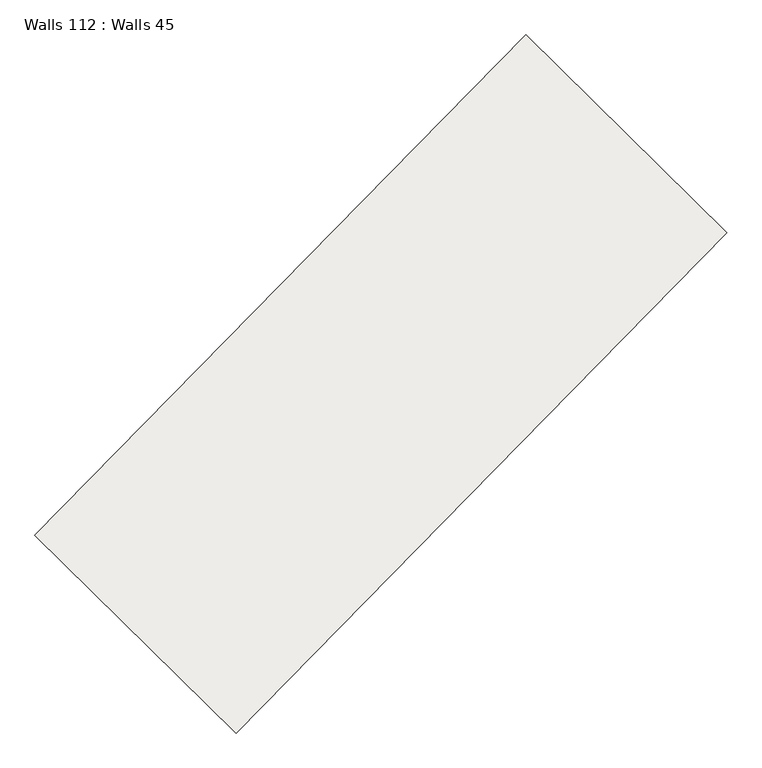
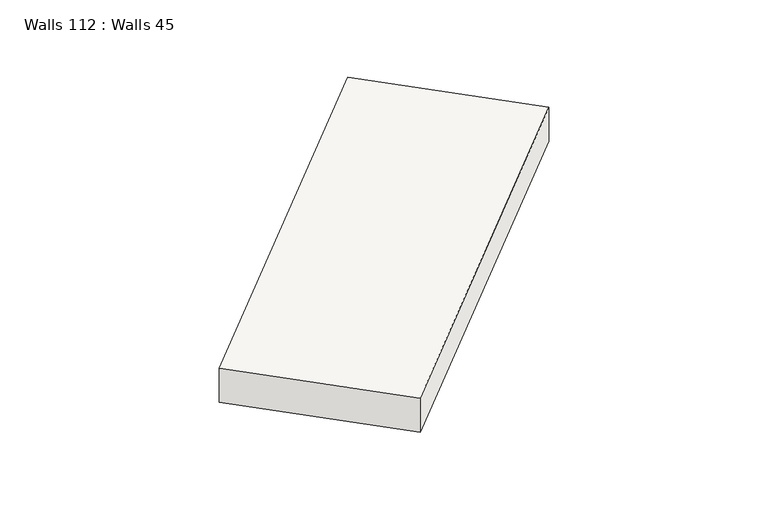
"""IFC4 building model written with IfcOpenShell, lengths in millimetres: slab geometry, Walls 112 : Walls 45."""

import ifcopenshell
import ifcopenshell.guid

model = None  # the IFC model being written
_history = None  # IfcOwnerHistory: only IFC2X3 demands one
_inside = {}  # id of a spatial element -> (the spatial element, [elements in it])
_under = {}  # id of a project, library or spatial element -> (it, [spatial elements below it])
_declared = {}  # id of a project -> (the project, [libraries it declares])
_typed = {}  # id of a type object -> (the type object, [elements of that type])
_made_of = {}  # id of a material, layer set ... -> (it, [elements and type objects made of it])


def new_model(schema):
    """Start an empty IFC model of exactly this schema.

    Asked for "IFC4X3", IfcOpenShell would pick the latest addendum, in which some entities
    have other attributes; the version numbers below select the first issue.
    IFC2X3 requires an IfcOwnerHistory on every rooted entity: one is made here for all.
    """
    global model, _history
    if schema == "IFC4X3":
        model = ifcopenshell.file(schema_version=(4, 3, 0, 0))
    else:
        model = ifcopenshell.file(schema=schema)
    _inside.clear()
    _under.clear()
    _declared.clear()
    _typed.clear()
    _made_of.clear()
    _history = None
    if model.schema == "IFC2X3":
        org = make("IfcOrganization", Name="unknown")
        user = make(
            "IfcPersonAndOrganization",
            ThePerson=make("IfcPerson", FamilyName="unknown"),
            TheOrganization=org,
        )
        app = make(
            "IfcApplication",
            ApplicationDeveloper=org,
            Version="unknown",
            ApplicationFullName="unknown",
            ApplicationIdentifier="unknown",
        )
        _history = make(
            "IfcOwnerHistory",
            OwningUser=user,
            OwningApplication=app,
            ChangeAction="ADDED",
            CreationDate=0,
        )
    return model


def make(cls, **values):
    """One entity of the class cls with the attributes given. An attribute that is None is left unset."""
    return model.create_entity(
        cls, **{name: value for name, value in values.items() if value is not None}
    )


def rooted(cls, **values):
    """An entity with a GlobalId (a new one), such as an element, a storey or a relation."""
    return make(cls, GlobalId=ifcopenshell.guid.new(), OwnerHistory=_history, **values)


def si_unit(unit_type, name, prefix=None):
    """IfcSIUnit, for example si_unit("LENGTHUNIT", "METRE", prefix="MILLI")."""
    return make("IfcSIUnit", UnitType=unit_type, Prefix=prefix, Name=name)


def assignment(units):
    """IfcUnitAssignment: the units of a project."""
    return None if units is None else make("IfcUnitAssignment", Units=units)


def point(xyz):
    """IfcCartesianPoint."""
    return None if xyz is None else make("IfcCartesianPoint", Coordinates=xyz)


def direction(xyz):
    """IfcDirection."""
    return None if xyz is None else make("IfcDirection", DirectionRatios=xyz)


def frame(location, z_axis=None, x_axis=None):
    """IfcAxis2Placement3D, a coordinate frame: its origin and axes. An axis left out is left unset."""
    return make(
        "IfcAxis2Placement3D",
        Location=point(location),
        Axis=direction(z_axis),
        RefDirection=direction(x_axis),
    )


def origin():
    """The frame at (0, 0, 0) with its axes left unset."""
    return frame((0.0, 0.0, 0.0))


def place(relative_to, where):
    """IfcLocalPlacement: puts the frame where relative to a parent placement (None: the world)."""
    return make(
        "IfcLocalPlacement", PlacementRelTo=relative_to, RelativePlacement=where
    )


def context(
    kind, dimensions, precision=None, world=None, true_north=None, identifier=None
):
    """IfcGeometricRepresentationContext, for example the 3D "Model" context."""
    return make(
        "IfcGeometricRepresentationContext",
        ContextIdentifier=identifier,
        ContextType=kind,
        CoordinateSpaceDimension=dimensions,
        Precision=precision,
        WorldCoordinateSystem=world,
        TrueNorth=true_north,
    )


def project(units=None, contexts=None):
    """IfcProject with its units and contexts."""
    return rooted(
        "IfcProject",
        Name="project",
        RepresentationContexts=contexts,
        UnitsInContext=assignment(units),
    )


def spatial(cls, under=None, at=None, **own):
    """A site, building, storey or space (cls), placed at a placement, below another one or the project."""
    s = rooted(cls, ObjectPlacement=at, **own)
    if under is not None:
        _under.setdefault(under.id(), (under, []))[1].append(s)
    return s


def polyline(points):
    """IfcPolyline through the points."""
    return make("IfcPolyline", Points=[point(p) for p in points])


def outline(outer, holes=None, kind="AREA"):
    """IfcArbitraryClosedProfileDef: a profile drawn as a closed curve; with holes, ...WithVoids."""
    if holes is None:
        return make("IfcArbitraryClosedProfileDef", ProfileType=kind, OuterCurve=outer)
    return make(
        "IfcArbitraryProfileDefWithVoids",
        ProfileType=kind,
        OuterCurve=outer,
        InnerCurves=holes,
    )


def extrude(swept, where, along, depth):
    """IfcExtrudedAreaSolid: the profile swept, set in the frame where, extruded along a direction by depth."""
    return make(
        "IfcExtrudedAreaSolid",
        SweptArea=swept,
        Position=where,
        ExtrudedDirection=direction(along),
        Depth=depth,
    )


def shape(context_of_items, identifier, shape_type, items):
    """IfcShapeRepresentation: the items that make up one representation, for example the "Body"."""
    return make(
        "IfcShapeRepresentation",
        ContextOfItems=context_of_items,
        RepresentationIdentifier=identifier,
        RepresentationType=shape_type,
        Items=items,
    )


def source(mapping_origin, context_of_items, identifier, shape_type, items):
    """IfcRepresentationMap: a shape defined once, which mapped items show again and again."""
    return make(
        "IfcRepresentationMap",
        MappingOrigin=mapping_origin,
        MappedRepresentation=shape(context_of_items, identifier, shape_type, items),
    )


def transform(
    local_origin,
    x_axis=None,
    y_axis=None,
    z_axis=None,
    scale=None,
    scale2=None,
    scale3=None,
    uniform=True,
):
    """IfcCartesianTransformationOperator3D, or its non-uniform kind. x_axis, y_axis, z_axis: its Axis1, 2, 3."""
    if uniform:
        return make(
            "IfcCartesianTransformationOperator3D",
            Axis1=direction(x_axis),
            Axis2=direction(y_axis),
            LocalOrigin=point(local_origin),
            Scale=scale,
            Axis3=direction(z_axis),
        )
    return make(
        "IfcCartesianTransformationOperator3DnonUniform",
        Axis1=direction(x_axis),
        Axis2=direction(y_axis),
        LocalOrigin=point(local_origin),
        Scale=scale,
        Axis3=direction(z_axis),
        Scale2=scale2,
        Scale3=scale3,
    )


def mapped(mapping_source, mapping_target):
    """IfcMappedItem: shows the shape of a source again, moved by a transform."""
    return make(
        "IfcMappedItem", MappingSource=mapping_source, MappingTarget=mapping_target
    )


def made_of(thing, what):
    """Note that an element or type object is made of a material, layer set ...; save() writes the relation."""
    if what is not None:
        _made_of.setdefault(what.id(), (what, []))[1].append(thing)
    return thing


def element(
    cls,
    number,
    at=None,
    inside=None,
    cuts=None,
    type_object=None,
    material=None,
    context=None,
    identifier="Body",
    shape_type=None,
    held_by="IfcProductDefinitionShape",
    body=None,
    shapes=None,
    **own,
):
    """One element of the class cls, such as IfcWall. Its Tag is "e" and its number.

    at: its placement. inside: the storey or other place that contains it. cuts: it is an
    opening in that element (IfcRelVoidsElement). A single representation is given by context,
    identifier, shape_type and body (its items); several are given by shapes. held_by: the class
    of the entity that holds the representations. save() writes the other relations.
    """
    e = rooted(cls, Tag="e%d" % number, ObjectPlacement=at, **own)
    if body is not None:
        shapes = [shape(context, identifier, shape_type, body)]
    if shapes is not None:
        e.Representation = make(held_by, Representations=shapes)
    if inside is not None:
        _inside.setdefault(inside.id(), (inside, []))[1].append(e)
    if cuts is not None:
        rooted(
            "IfcRelVoidsElement", RelatingBuildingElement=cuts, RelatedOpeningElement=e
        )
    if type_object is not None:
        _typed.setdefault(type_object.id(), (type_object, []))[1].append(e)
    return made_of(e, material)


def aggregate(whole, parts):
    """IfcRelAggregates: a whole, such as a stair, and the parts it consists of."""
    return rooted("IfcRelAggregates", RelatingObject=whole, RelatedObjects=parts)


def save(model, path):
    """Write the relations noted so far, then the file.

    IfcRelAggregates (storeys below a building ...), IfcRelContainedInSpatialStructure (elements
    in a storey), IfcRelDefinesByType, IfcRelAssociatesMaterial and IfcRelDeclares: one each for
    every whole, place, type object, material and project.
    """
    for whole, parts in _under.values():
        aggregate(whole, parts)
    for where, things in _inside.values():
        rooted(
            "IfcRelContainedInSpatialStructure",
            RelatedElements=things,
            RelatingStructure=where,
        )
    for kind, things in _typed.values():
        rooted("IfcRelDefinesByType", RelatedObjects=things, RelatingType=kind)
    for what, things in _made_of.values():
        rooted("IfcRelAssociatesMaterial", RelatedObjects=things, RelatingMaterial=what)
    for by, libraries in _declared.values():
        rooted("IfcRelDeclares", RelatingContext=by, RelatedDefinitions=libraries)
    model.write(path)


def walls_112_walls_45_5f036ad3(model_context):
    return source(origin(), model_context, "Body", "SweptSolid", [
        extrude(outline(polyline([(-350.0, 0.0), (350.0, 0.0), (260.0, -8700.0000009), (-440.0, -8700.0000009), (-350.0, 0.0)])), frame((-109706.501378, -270995.1912666, 636850.0), z_axis=(-0.7137361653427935, 0.7004146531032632, 0.0), x_axis=(0.0, 0.0, 1.0)), (0.0, 0.0, 1.0), 3499.999995),
    ])


if __name__ == "__main__":
    model = new_model("IFC4")
    model_context = context("Model", 3, world=origin())
    ifc_project = project(units=[si_unit("LENGTHUNIT", "METRE", prefix="MILLI")], contexts=[model_context])
    site = spatial("IfcSite", under=ifc_project)
    building = spatial("IfcBuilding", under=site)
    placement = place(None, origin())
    walls_112_walls_45_shape = walls_112_walls_45_5f036ad3(model_context)
    element("IfcSlab", 1, ObjectType="Walls 112 : Walls 45", at=placement, inside=building, context=model_context, shape_type="MappedRepresentation", body=[
        mapped(walls_112_walls_45_shape, transform((0.0, 0.0, 0.0), x_axis=(1.0, 0.0, 0.0), y_axis=(0.0, 1.0, 0.0), z_axis=(0.0, 0.0, 1.0))),
    ])
    save(model, "model.ifc")
